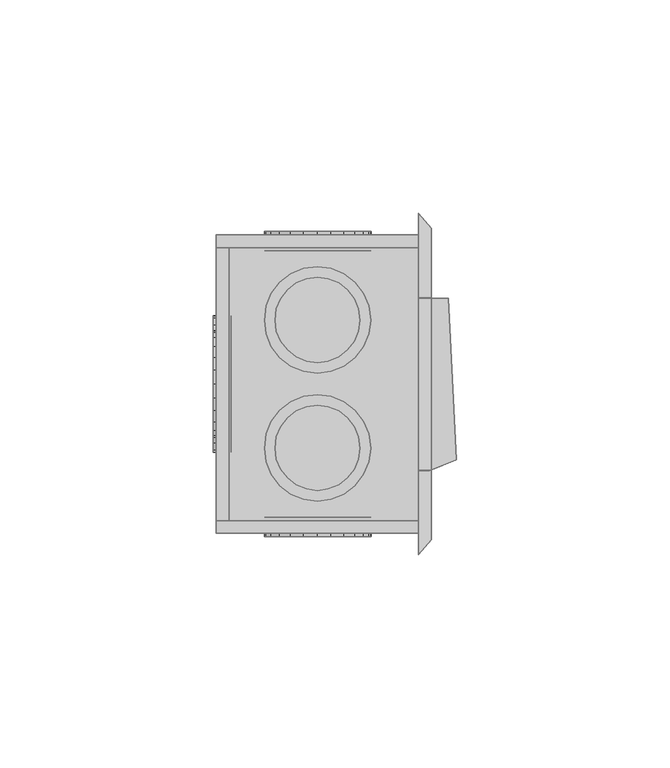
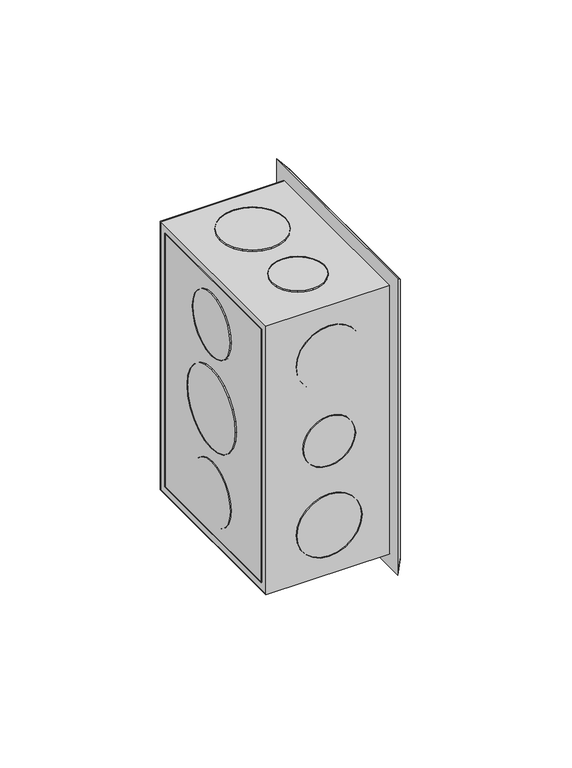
"""IFC4 building model written with IfcOpenShell, lengths in millimetres: proxy geometry,  210157 :  210157."""

from ifc_helpers import new_model, si_unit, origin, place, context, project, spatial, triangles, source, transform, mapped, element, save


def generic_models_f0119ebf(model_context):
    return source(origin(), model_context, "Body", "Tessellation", [
        triangles([(1323.4000351, 28251.801123, 1254.3000378), (1323.4000351, 28248.7989807, 1148.7000154), (1323.4000351, 28251.801123, 1145.6999805), (1323.4000351, 28248.7989807, 1251.2999302), (1323.4000351, 28181.8007446, 1254.3000378), (1323.4000351, 28184.8005615, 1251.2999302), (1323.4000351, 28181.8007446, 1145.6999805), (1323.4000351, 28184.8005615, 1148.7000154), (1275.9000275, 28248.7989807, 1251.2999302), (1275.9000275, 28248.7989807, 1148.7000154), (1275.9000275, 28181.8007446, 1254.3000378), (1275.9000275, 28181.8007446, 1145.6999805), (1275.9000275, 28184.8005615, 1251.2999302), (1275.9000275, 28251.801123, 1145.6999805), (1275.9000275, 28184.8005615, 1148.7000154), (1275.9000275, 28251.801123, 1254.3000378), (1278.8999897, 28248.7989807, 1251.2999302), (1278.8999897, 28184.8005615, 1148.7000154), (1278.8999897, 28248.7989807, 1148.7000154), (1278.8999897, 28184.8005615, 1251.2999302), (1279.3999592, 28230.7000854, 1191.9999887), (1279.3999592, 28224.8004456, 1186.0999855), (1279.3999592, 28228.1002441, 1188.6999722), (1279.3999592, 28232.2999878, 1195.8999687), (1279.3999592, 28221.0006775, 1184.5000105), (1279.3999592, 28232.7999573, 1200.0000092), (1279.3999592, 28216.8009338, 1183.9999683), (1279.3999592, 28232.2999878, 1204.0999769), (1279.3999592, 28212.6988586, 1184.5000105), (1279.3999592, 28230.7000854, 1208.0000296), (1279.3999592, 28208.7990967, 1186.0999855), (1279.3999592, 28228.1002441, 1211.2999735), (1279.3999592, 28205.4992981, 1188.6999722), (1279.3999592, 28224.8004456, 1213.9000328), (1279.3999592, 28202.9994507, 1191.9999887), (1279.3999592, 28221.0006775, 1215.5000078), (1279.3999592, 28201.3995483, 1195.8999687), (1279.3999592, 28216.8009338, 1215.9999773), (1279.3999592, 28200.799585, 1200.0000092), (1279.3999592, 28212.6988586, 1215.5000078), (1279.3999592, 28201.3995483, 1204.0999769), (1279.3999592, 28208.7990967, 1213.9000328), (1279.3999592, 28202.9994507, 1208.0000296), (1279.3999592, 28205.4992981, 1211.2999735), (1275.2000702, 28212.6988586, 1184.5000105), (1275.2000702, 28216.8009338, 1183.9999683), (1275.2000702, 28221.0006775, 1184.5000105), (1275.2000702, 28224.8004456, 1186.0999855), (1275.2000702, 28228.1002441, 1188.6999722), (1275.2000702, 28230.7000854, 1191.9999887), (1275.2000702, 28232.2999878, 1195.8999687), (1275.2000702, 28232.7999573, 1200.0000092), (1275.2000702, 28232.2999878, 1204.0999769), (1275.2000702, 28230.7000854, 1208.0000296), (1275.2000702, 28228.1002441, 1211.2999735), (1275.2000702, 28224.8004456, 1213.9000328), (1275.2000702, 28221.0006775, 1215.5000078), (1275.2000702, 28216.8009338, 1215.9999773), (1275.2000702, 28212.6988586, 1215.5000078), (1275.2000702, 28208.7990967, 1213.9000328), (1275.2000702, 28205.4992981, 1211.2999735), (1275.2000702, 28202.9994507, 1208.0000296), (1275.2000702, 28201.3995483, 1204.0999769), (1275.2000702, 28200.799585, 1200.0000092), (1275.2000702, 28201.3995483, 1195.8999687), (1275.2000702, 28202.9994507, 1191.9999887), (1275.2000702, 28205.4992981, 1188.6999722), (1275.2000702, 28208.7990967, 1186.0999855), (1279.3999592, 28227.7002686, 1227.8000565), (1279.3999592, 28223.1005493, 1223.2000465), (1279.3999592, 28225.7003906, 1225.2000698), (1279.3999592, 28228.9001953, 1230.8000187), (1279.3999592, 28220.1007324, 1221.8999805), (1279.3999592, 28229.3001709, 1233.9999687), (1279.3999592, 28216.8009338, 1221.500005), (1279.3999592, 28228.9001953, 1237.2000641), (1279.3999592, 28213.6011292, 1221.8999805), (1279.3999592, 28227.7002686, 1240.3000202), (1279.3999592, 28210.5989868, 1223.2000465), (1279.3999592, 28225.7003906, 1242.800013), (1279.3999592, 28207.9991455, 1225.2000698), (1279.3999592, 28205.9992676, 1227.8000565), (1279.3999592, 28223.1005493, 1244.8000362), (1279.3999592, 28220.1007324, 1246.0999569), (1279.3999592, 28204.7993408, 1230.8000187), (1279.3999592, 28216.8009338, 1246.4999325), (1279.3999592, 28204.2993713, 1233.9999687), (1279.3999592, 28213.6011292, 1246.0999569), (1279.3999592, 28204.7993408, 1237.2000641), (1279.3999592, 28205.9992676, 1240.3000202), (1279.3999592, 28210.5989868, 1244.8000362), (1279.3999592, 28207.9991455, 1242.800013), (1275.2000702, 28204.7993408, 1230.8000187), (1275.2000702, 28205.9992676, 1227.8000565), (1275.2000702, 28207.9991455, 1225.2000698), (1275.2000702, 28210.5989868, 1223.2000465), (1275.2000702, 28213.6011292, 1221.8999805), (1275.2000702, 28216.8009338, 1221.500005), (1275.2000702, 28220.1007324, 1221.8999805), (1275.2000702, 28223.1005493, 1223.2000465), (1275.2000702, 28225.7003906, 1225.2000698), (1275.2000702, 28227.7002686, 1227.8000565), (1275.2000702, 28228.9001953, 1230.8000187), (1275.2000702, 28229.3001709, 1233.9999687), (1275.2000702, 28228.9001953, 1237.2000641), (1275.2000702, 28227.7002686, 1240.3000202), (1275.2000702, 28225.7003906, 1242.800013), (1275.2000702, 28223.1005493, 1244.8000362), (1275.2000702, 28220.1007324, 1246.0999569), (1275.2000702, 28216.8009338, 1246.4999325), (1275.2000702, 28213.6011292, 1246.0999569), (1275.2000702, 28210.5989868, 1244.8000362), (1275.2000702, 28207.9991455, 1242.800013), (1275.2000702, 28205.9992676, 1240.3000202), (1275.2000702, 28204.7993408, 1237.2000641), (1275.2000702, 28204.2993713, 1233.9999687), (1275.2000702, 28223.1005493, 1155.1999821), (1275.2000702, 28227.7002686, 1159.6999981), (1275.2000702, 28225.7003906, 1157.2000053), (1275.2000702, 28220.1007324, 1153.8999887), (1275.2000702, 28228.9001953, 1162.8000269), (1275.2000702, 28216.8009338, 1153.5000132), (1275.2000702, 28229.3001709, 1165.9999769), (1275.2000702, 28213.6011292, 1153.8999887), (1275.2000702, 28228.9001953, 1169.1999996), (1275.2000702, 28210.5989868, 1155.1999821), (1275.2000702, 28227.7002686, 1172.2000345), (1275.2000702, 28207.9991455, 1157.2000053), (1275.2000702, 28225.7003906, 1174.8000212), (1275.2000702, 28205.9992676, 1159.6999981), (1275.2000702, 28223.1005493, 1176.7999718), (1275.2000702, 28204.7993408, 1162.8000269), (1275.2000702, 28220.1007324, 1178.0999651), (1275.2000702, 28216.8009338, 1178.5000134), (1275.2000702, 28204.2993713, 1165.9999769), (1275.2000702, 28204.7993408, 1169.1999996), (1275.2000702, 28213.6011292, 1178.0999651), (1275.2000702, 28205.9992676, 1172.2000345), (1275.2000702, 28210.5989868, 1176.7999718), (1275.2000702, 28207.9991455, 1174.8000212), (1279.3999592, 28220.1007324, 1178.0999651), (1279.3999592, 28216.8009338, 1178.5000134), (1279.3999592, 28223.1005493, 1176.7999718), (1279.3999592, 28225.7003906, 1174.8000212), (1279.3999592, 28227.7002686, 1172.2000345), (1279.3999592, 28228.9001953, 1169.1999996), (1279.3999592, 28229.3001709, 1165.9999769), (1279.3999592, 28228.9001953, 1162.8000269), (1279.3999592, 28227.7002686, 1159.6999981), (1279.3999592, 28225.7003906, 1157.2000053), (1279.3999592, 28223.1005493, 1155.1999821), (1279.3999592, 28220.1007324, 1153.8999887), (1279.3999592, 28216.8009338, 1153.5000132), (1279.3999592, 28213.6011292, 1153.8999887), (1279.3999592, 28210.5989868, 1155.1999821), (1279.3999592, 28207.9991455, 1157.2000053), (1279.3999592, 28205.9992676, 1159.6999981), (1279.3999592, 28204.7993408, 1162.8000269), (1279.3999592, 28204.2993713, 1165.9999769), (1279.3999592, 28204.7993408, 1169.1999996), (1279.3999592, 28205.9992676, 1172.2000345), (1279.3999592, 28207.9991455, 1174.8000212), (1279.3999592, 28210.5989868, 1176.7999718), (1279.3999592, 28213.6011292, 1178.0999651), (1294.7000427, 28247.9990295, 1191.3000315), (1290.9999779, 28247.9990295, 1195.0000237), (1292.6000256, 28247.9990295, 1192.9000065), (1290.0000389, 28247.9990295, 1197.4000225), (1297.1000416, 28247.9990295, 1190.3000198), (1289.7000572, 28247.9990295, 1200.0000092), (1299.7000282, 28247.9990295, 1189.9999655), (1302.200021, 28247.9990295, 1190.3000198), (1290.0000389, 28247.9990295, 1202.5999958), (1290.9999779, 28247.9990295, 1204.9999947), (1304.7000137, 28247.9990295, 1191.3000315), (1292.6000256, 28247.9990295, 1207.1000118), (1306.700037, 28247.9990295, 1192.9000065), (1308.2999393, 28247.9990295, 1195.0000237), (1294.7000427, 28247.9990295, 1208.6999868), (1309.3000237, 28247.9990295, 1197.4000225), (1297.1000416, 28247.9990295, 1209.6999985), (1309.6999992, 28247.9990295, 1200.0000092), (1299.7000282, 28247.9990295, 1209.9999802), (1309.3000237, 28247.9990295, 1202.5999958), (1302.200021, 28247.9990295, 1209.6999985), (1304.7000137, 28247.9990295, 1208.6999868), (1308.2999393, 28247.9990295, 1204.9999947), (1306.700037, 28247.9990295, 1207.1000118), (1299.7000282, 28252.6010742, 1189.9999655), (1297.1000416, 28252.6010742, 1190.3000198), (1302.200021, 28252.6010742, 1190.3000198), (1304.7000137, 28252.6010742, 1191.3000315), (1306.700037, 28252.6010742, 1192.9000065), (1308.2999393, 28252.6010742, 1195.0000237), (1309.3000237, 28252.6010742, 1197.4000225), (1309.6999992, 28252.6010742, 1200.0000092), (1309.3000237, 28252.6010742, 1202.5999958), (1308.2999393, 28252.6010742, 1204.9999947), (1306.700037, 28252.6010742, 1207.1000118), (1304.7000137, 28252.6010742, 1208.6999868), (1302.200021, 28252.6010742, 1209.6999985), (1299.7000282, 28252.6010742, 1209.9999802), (1297.1000416, 28252.6010742, 1209.6999985), (1294.7000427, 28252.6010742, 1208.6999868), (1292.6000256, 28252.6010742, 1207.1000118), (1290.9999779, 28252.6010742, 1204.9999947), (1290.0000389, 28252.6010742, 1202.5999958), (1289.7000572, 28252.6010742, 1200.0000092), (1290.0000389, 28252.6010742, 1197.4000225), (1290.9999779, 28252.6010742, 1195.0000237), (1292.6000256, 28252.6010742, 1192.9000065), (1294.7000427, 28252.6010742, 1191.3000315), (1293.3999767, 28247.9990295, 1223.2000465), (1288.7999668, 28247.9990295, 1227.8000565), (1290.7999901, 28247.9990295, 1225.2000698), (1296.399939, 28247.9990295, 1221.8999805), (1287.6000401, 28247.9990295, 1230.8000187), (1287.2000645, 28247.9990295, 1233.9999687), (1299.7000282, 28247.9990295, 1221.500005), (1302.8999783, 28247.9990295, 1221.8999805), (1287.6000401, 28247.9990295, 1237.2000641), (1288.7999668, 28247.9990295, 1240.3000202), (1305.8999405, 28247.9990295, 1223.2000465), (1308.5000725, 28247.9990295, 1225.2000698), (1290.7999901, 28247.9990295, 1242.800013), (1310.4999504, 28247.9990295, 1227.8000565), (1293.3999767, 28247.9990295, 1244.8000362), (1311.7000225, 28247.9990295, 1230.8000187), (1296.399939, 28247.9990295, 1246.0999569), (1312.199992, 28247.9990295, 1233.9999687), (1299.7000282, 28247.9990295, 1246.4999325), (1311.7000225, 28247.9990295, 1237.2000641), (1302.8999783, 28247.9990295, 1246.0999569), (1310.4999504, 28247.9990295, 1240.3000202), (1305.8999405, 28247.9990295, 1244.8000362), (1308.5000725, 28247.9990295, 1242.800013), (1299.7000282, 28252.6010742, 1221.500005), (1296.399939, 28252.6010742, 1221.8999805), (1302.8999783, 28252.6010742, 1221.8999805), (1305.8999405, 28252.6010742, 1223.2000465), (1308.5000725, 28252.6010742, 1225.2000698), (1310.4999504, 28252.6010742, 1227.8000565), (1311.7000225, 28252.6010742, 1230.8000187), (1312.199992, 28252.6010742, 1233.9999687), (1311.7000225, 28252.6010742, 1237.2000641), (1310.4999504, 28252.6010742, 1240.3000202), (1308.5000725, 28252.6010742, 1242.800013), (1305.8999405, 28252.6010742, 1244.8000362), (1302.8999783, 28252.6010742, 1246.0999569), (1299.7000282, 28252.6010742, 1246.4999325), (1296.399939, 28252.6010742, 1246.0999569), (1293.3999767, 28252.6010742, 1244.8000362), (1290.7999901, 28252.6010742, 1242.800013), (1288.7999668, 28252.6010742, 1240.3000202), (1287.6000401, 28252.6010742, 1237.2000641), (1287.2000645, 28252.6010742, 1233.9999687), (1287.6000401, 28252.6010742, 1230.8000187), (1288.7999668, 28252.6010742, 1227.8000565), (1290.7999901, 28252.6010742, 1225.2000698), (1293.3999767, 28252.6010742, 1223.2000465), (1288.7999668, 28252.6010742, 1159.6999981), (1293.3999767, 28252.6010742, 1155.1999821), (1290.7999901, 28252.6010742, 1157.2000053), (1287.6000401, 28252.6010742, 1162.8000269), (1296.399939, 28252.6010742, 1153.8999887), (1287.2000645, 28252.6010742, 1165.9999769), (1299.7000282, 28252.6010742, 1153.5000132), (1287.6000401, 28252.6010742, 1169.1999996), (1302.8999783, 28252.6010742, 1153.8999887), (1288.7999668, 28252.6010742, 1172.2000345), (1305.8999405, 28252.6010742, 1155.1999821), (1290.7999901, 28252.6010742, 1174.8000212), (1308.5000725, 28252.6010742, 1157.2000053), (1293.3999767, 28252.6010742, 1176.7999718), (1310.4999504, 28252.6010742, 1159.6999981), (1296.399939, 28252.6010742, 1178.0999651), (1311.7000225, 28252.6010742, 1162.8000269), (1299.7000282, 28252.6010742, 1178.5000134), (1312.199992, 28252.6010742, 1165.9999769), (1302.8999783, 28252.6010742, 1178.0999651), (1311.7000225, 28252.6010742, 1169.1999996), (1305.8999405, 28252.6010742, 1176.7999718), (1310.4999504, 28252.6010742, 1172.2000345), (1308.5000725, 28252.6010742, 1174.8000212), (1296.399939, 28247.9990295, 1178.0999651), (1299.7000282, 28247.9990295, 1178.5000134), (1302.8999783, 28247.9990295, 1178.0999651), (1305.8999405, 28247.9990295, 1176.7999718), (1308.5000725, 28247.9990295, 1174.8000212), (1310.4999504, 28247.9990295, 1172.2000345), (1311.7000225, 28247.9990295, 1169.1999996), (1312.199992, 28247.9990295, 1165.9999769), (1311.7000225, 28247.9990295, 1162.8000269), (1310.4999504, 28247.9990295, 1159.6999981), (1308.5000725, 28247.9990295, 1157.2000053), (1305.8999405, 28247.9990295, 1155.1999821), (1302.8999783, 28247.9990295, 1153.8999887), (1299.7000282, 28247.9990295, 1153.5000132), (1296.399939, 28247.9990295, 1153.8999887), (1293.3999767, 28247.9990295, 1155.1999821), (1290.7999901, 28247.9990295, 1157.2000053), (1288.7999668, 28247.9990295, 1159.6999981), (1287.6000401, 28247.9990295, 1162.8000269), (1287.2000645, 28247.9990295, 1165.9999769), (1287.6000401, 28247.9990295, 1169.1999996), (1288.7999668, 28247.9990295, 1172.2000345), (1290.7999901, 28247.9990295, 1174.8000212), (1293.3999767, 28247.9990295, 1176.7999718), (1290.9999779, 28185.6005127, 1195.0000237), (1294.7000427, 28185.6005127, 1191.3000315), (1292.6000256, 28185.6005127, 1192.9000065), (1290.0000389, 28185.6005127, 1197.4000225), (1297.1000416, 28185.6005127, 1190.3000198), (1289.7000572, 28185.6005127, 1200.0000092), (1299.7000282, 28185.6005127, 1189.9999655), (1290.0000389, 28185.6005127, 1202.5999958), (1302.200021, 28185.6005127, 1190.3000198), (1290.9999779, 28185.6005127, 1204.9999947), (1304.7000137, 28185.6005127, 1191.3000315), (1292.6000256, 28185.6005127, 1207.1000118), (1306.700037, 28185.6005127, 1192.9000065), (1294.7000427, 28185.6005127, 1208.6999868), (1308.2999393, 28185.6005127, 1195.0000237), (1297.1000416, 28185.6005127, 1209.6999985), (1309.3000237, 28185.6005127, 1197.4000225), (1309.6999992, 28185.6005127, 1200.0000092), (1299.7000282, 28185.6005127, 1209.9999802), (1302.200021, 28185.6005127, 1209.6999985), (1309.3000237, 28185.6005127, 1202.5999958), (1304.7000137, 28185.6005127, 1208.6999868), (1308.2999393, 28185.6005127, 1204.9999947), (1306.700037, 28185.6005127, 1207.1000118), (1297.1000416, 28181.0007935, 1209.6999985), (1299.7000282, 28181.0007935, 1209.9999802), (1302.200021, 28181.0007935, 1209.6999985), (1304.7000137, 28181.0007935, 1208.6999868), (1306.700037, 28181.0007935, 1207.1000118), (1308.2999393, 28181.0007935, 1204.9999947), (1309.3000237, 28181.0007935, 1202.5999958), (1309.6999992, 28181.0007935, 1200.0000092), (1309.3000237, 28181.0007935, 1197.4000225), (1308.2999393, 28181.0007935, 1195.0000237), (1306.700037, 28181.0007935, 1192.9000065), (1304.7000137, 28181.0007935, 1191.3000315), (1302.200021, 28181.0007935, 1190.3000198), (1299.7000282, 28181.0007935, 1189.9999655), (1297.1000416, 28181.0007935, 1190.3000198), (1294.7000427, 28181.0007935, 1191.3000315), (1292.6000256, 28181.0007935, 1192.9000065), (1290.9999779, 28181.0007935, 1195.0000237), (1290.0000389, 28181.0007935, 1197.4000225), (1289.7000572, 28181.0007935, 1200.0000092), (1290.0000389, 28181.0007935, 1202.5999958), (1290.9999779, 28181.0007935, 1204.9999947), (1292.6000256, 28181.0007935, 1207.1000118), (1294.7000427, 28181.0007935, 1208.6999868), (1288.7999668, 28185.6005127, 1159.6999981), (1293.3999767, 28185.6005127, 1155.1999821), (1290.7999901, 28185.6005127, 1157.2000053), (1287.6000401, 28185.6005127, 1162.8000269), (1296.399939, 28185.6005127, 1153.8999887), (1287.2000645, 28185.6005127, 1165.9999769), (1299.7000282, 28185.6005127, 1153.5000132), (1287.6000401, 28185.6005127, 1169.1999996), (1302.8999783, 28185.6005127, 1153.8999887), (1288.7999668, 28185.6005127, 1172.2000345), (1305.8999405, 28185.6005127, 1155.1999821), (1290.7999901, 28185.6005127, 1174.8000212), (1308.5000725, 28185.6005127, 1157.2000053), (1293.3999767, 28185.6005127, 1176.7999718), (1310.4999504, 28185.6005127, 1159.6999981), (1296.399939, 28185.6005127, 1178.0999651), (1311.7000225, 28185.6005127, 1162.8000269), (1299.7000282, 28185.6005127, 1178.5000134), (1312.199992, 28185.6005127, 1165.9999769), (1302.8999783, 28185.6005127, 1178.0999651), (1311.7000225, 28185.6005127, 1169.1999996), (1305.8999405, 28185.6005127, 1176.7999718), (1310.4999504, 28185.6005127, 1172.2000345), (1308.5000725, 28185.6005127, 1174.8000212), (1296.399939, 28181.0007935, 1178.0999651), (1299.7000282, 28181.0007935, 1178.5000134), (1302.8999783, 28181.0007935, 1178.0999651), (1305.8999405, 28181.0007935, 1176.7999718), (1308.5000725, 28181.0007935, 1174.8000212), (1310.4999504, 28181.0007935, 1172.2000345), (1311.7000225, 28181.0007935, 1169.1999996), (1312.199992, 28181.0007935, 1165.9999769), (1311.7000225, 28181.0007935, 1162.8000269), (1310.4999504, 28181.0007935, 1159.6999981), (1308.5000725, 28181.0007935, 1157.2000053), (1305.8999405, 28181.0007935, 1155.1999821), (1302.8999783, 28181.0007935, 1153.8999887), (1299.7000282, 28181.0007935, 1153.5000132), (1296.399939, 28181.0007935, 1153.8999887), (1293.3999767, 28181.0007935, 1155.1999821), (1290.7999901, 28181.0007935, 1157.2000053), (1288.7999668, 28181.0007935, 1159.6999981), (1287.6000401, 28181.0007935, 1162.8000269), (1287.2000645, 28181.0007935, 1165.9999769), (1287.6000401, 28181.0007935, 1169.1999996), (1288.7999668, 28181.0007935, 1172.2000345), (1290.7999901, 28181.0007935, 1174.8000212), (1293.3999767, 28181.0007935, 1176.7999718), (1293.3999767, 28181.0007935, 1223.2000465), (1288.7999668, 28181.0007935, 1227.8000565), (1290.7999901, 28181.0007935, 1225.2000698), (1296.399939, 28181.0007935, 1221.8999805), (1287.6000401, 28181.0007935, 1230.8000187), (1287.2000645, 28181.0007935, 1233.9999687), (1299.7000282, 28181.0007935, 1221.500005), (1302.8999783, 28181.0007935, 1221.8999805), (1287.6000401, 28181.0007935, 1237.2000641), (1288.7999668, 28181.0007935, 1240.3000202), (1305.8999405, 28181.0007935, 1223.2000465), (1308.5000725, 28181.0007935, 1225.2000698), (1290.7999901, 28181.0007935, 1242.800013), (1310.4999504, 28181.0007935, 1227.8000565), (1293.3999767, 28181.0007935, 1244.8000362), (1311.7000225, 28181.0007935, 1230.8000187), (1296.399939, 28181.0007935, 1246.0999569), (1312.199992, 28181.0007935, 1233.9999687), (1299.7000282, 28181.0007935, 1246.4999325), (1311.7000225, 28181.0007935, 1237.2000641), (1302.8999783, 28181.0007935, 1246.0999569), (1310.4999504, 28181.0007935, 1240.3000202), (1305.8999405, 28181.0007935, 1244.8000362), (1308.5000725, 28181.0007935, 1242.800013), (1299.7000282, 28185.6005127, 1221.500005), (1296.399939, 28185.6005127, 1221.8999805), (1302.8999783, 28185.6005127, 1221.8999805), (1305.8999405, 28185.6005127, 1223.2000465), (1308.5000725, 28185.6005127, 1225.2000698), (1310.4999504, 28185.6005127, 1227.8000565), (1311.7000225, 28185.6005127, 1230.8000187), (1312.199992, 28185.6005127, 1233.9999687), (1311.7000225, 28185.6005127, 1237.2000641), (1310.4999504, 28185.6005127, 1240.3000202), (1308.5000725, 28185.6005127, 1242.800013), (1305.8999405, 28185.6005127, 1244.8000362), (1302.8999783, 28185.6005127, 1246.0999569), (1299.7000282, 28185.6005127, 1246.4999325), (1296.399939, 28185.6005127, 1246.0999569), (1293.3999767, 28185.6005127, 1244.8000362), (1290.7999901, 28185.6005127, 1242.800013), (1288.7999668, 28185.6005127, 1240.3000202), (1287.6000401, 28185.6005127, 1237.2000641), (1287.2000645, 28185.6005127, 1233.9999687), (1287.6000401, 28185.6005127, 1230.8000187), (1288.7999668, 28185.6005127, 1227.8000565), (1290.7999901, 28185.6005127, 1225.2000698), (1293.3999767, 28185.6005127, 1223.2000465), (1293.3999767, 28242.699353, 1250.9999485), (1288.7999668, 28238.0996338, 1250.9999485), (1290.7999901, 28240.6994751, 1250.9999485), (1296.399939, 28243.8992798, 1250.9999485), (1287.6000401, 28235.0998169, 1250.9999485), (1287.2000645, 28231.8000183, 1250.9999485), (1299.7000282, 28244.2992554, 1250.9999485), (1302.8999783, 28243.8992798, 1250.9999485), (1287.6000401, 28228.6002136, 1250.9999485), (1288.7999668, 28225.6003967, 1250.9999485), (1305.8999405, 28242.699353, 1250.9999485), (1308.5000725, 28240.6994751, 1250.9999485), (1290.7999901, 28223.0005554, 1250.9999485), (1293.3999767, 28221.0006775, 1250.9999485), (1310.4999504, 28238.0996338, 1250.9999485), (1311.7000225, 28235.0998169, 1250.9999485), (1296.399939, 28219.8007507, 1250.9999485), (1312.199992, 28231.8000183, 1250.9999485), (1299.7000282, 28219.3007812, 1250.9999485), (1311.7000225, 28228.6002136, 1250.9999485), (1302.8999783, 28219.8007507, 1250.9999485), (1305.8999405, 28221.0006775, 1250.9999485), (1310.4999504, 28225.6003967, 1250.9999485), (1308.5000725, 28223.0005554, 1250.9999485), (1287.2000645, 28231.8000183, 1255.1999828), (1287.6000401, 28228.6002136, 1255.1999828), (1287.6000401, 28235.0998169, 1255.1999828), (1288.7999668, 28238.0996338, 1255.1999828), (1290.7999901, 28240.6994751, 1255.1999828), (1293.3999767, 28242.699353, 1255.1999828), (1296.399939, 28243.8992798, 1255.1999828), (1299.7000282, 28244.2992554, 1255.1999828), (1302.8999783, 28243.8992798, 1255.1999828), (1305.8999405, 28242.699353, 1255.1999828), (1308.5000725, 28240.6994751, 1255.1999828), (1310.4999504, 28238.0996338, 1255.1999828), (1311.7000225, 28235.0998169, 1255.1999828), (1312.199992, 28231.8000183, 1255.1999828), (1311.7000225, 28228.6002136, 1255.1999828), (1310.4999504, 28225.6003967, 1255.1999828), (1308.5000725, 28223.0005554, 1255.1999828), (1305.8999405, 28221.0006775, 1255.1999828), (1302.8999783, 28219.8007507, 1255.1999828), (1299.7000282, 28219.3007812, 1255.1999828), (1296.399939, 28219.8007507, 1255.1999828), (1293.3999767, 28221.0006775, 1255.1999828), (1290.7999901, 28223.0005554, 1255.1999828), (1288.7999668, 28225.6003967, 1255.1999828), (1294.7000427, 28210.4989929, 1250.9999485), (1290.9999779, 28206.7992188, 1250.9999485), (1292.6000256, 28208.8990906, 1250.9999485), (1290.0000389, 28204.3993652, 1250.9999485), (1297.1000416, 28211.4989319, 1250.9999485), (1289.7000572, 28201.7995239, 1250.9999485), (1299.7000282, 28211.7989136, 1250.9999485), (1302.200021, 28211.4989319, 1250.9999485), (1290.0000389, 28199.1996826, 1250.9999485), (1290.9999779, 28196.7998291, 1250.9999485), (1304.7000137, 28210.4989929, 1250.9999485), (1292.6000256, 28194.7999512, 1250.9999485), (1306.700037, 28208.8990906, 1250.9999485), (1308.2999393, 28206.7992188, 1250.9999485), (1294.7000427, 28193.2000488, 1250.9999485), (1297.1000416, 28192.2001099, 1250.9999485), (1309.3000237, 28204.3993652, 1250.9999485), (1309.6999992, 28201.7995239, 1250.9999485), (1299.7000282, 28191.8001343, 1250.9999485), (1309.3000237, 28199.1996826, 1250.9999485), (1302.200021, 28192.2001099, 1250.9999485), (1308.2999393, 28196.7998291, 1250.9999485), (1304.7000137, 28193.2000488, 1250.9999485), (1306.700037, 28194.7999512, 1250.9999485), (1290.0000389, 28199.1996826, 1255.1999828), (1290.9999779, 28196.7998291, 1255.1999828), (1289.7000572, 28201.7995239, 1255.1999828), (1290.0000389, 28204.3993652, 1255.1999828), (1290.9999779, 28206.7992188, 1255.1999828), (1292.6000256, 28208.8990906, 1255.1999828), (1294.7000427, 28210.4989929, 1255.1999828), (1297.1000416, 28211.4989319, 1255.1999828), (1299.7000282, 28211.7989136, 1255.1999828), (1302.200021, 28211.4989319, 1255.1999828), (1304.7000137, 28210.4989929, 1255.1999828), (1306.700037, 28208.8990906, 1255.1999828), (1308.2999393, 28206.7992188, 1255.1999828), (1309.3000237, 28204.3993652, 1255.1999828), (1309.6999992, 28201.7995239, 1255.1999828), (1309.3000237, 28199.1996826, 1255.1999828), (1308.2999393, 28196.7998291, 1255.1999828), (1306.700037, 28194.7999512, 1255.1999828), (1304.7000137, 28193.2000488, 1255.1999828), (1302.200021, 28192.2001099, 1255.1999828), (1299.7000282, 28191.8001343, 1255.1999828), (1297.1000416, 28192.2001099, 1255.1999828), (1294.7000427, 28193.2000488, 1255.1999828), (1292.6000256, 28194.7999512, 1255.1999828), (1294.7000427, 28240.4994873, 1144.8000355), (1290.9999779, 28236.7997131, 1144.8000355), (1292.6000256, 28238.899585, 1144.8000355), (1290.0000389, 28234.3998596, 1144.8000355), (1297.1000416, 28241.4994263, 1144.8000355), (1289.7000572, 28231.8000183, 1144.8000355), (1299.7000282, 28241.799408, 1144.8000355), (1302.200021, 28241.4994263, 1144.8000355), (1290.0000389, 28229.200177, 1144.8000355), (1290.9999779, 28226.8003235, 1144.8000355), (1304.7000137, 28240.4994873, 1144.8000355), (1292.6000256, 28224.8004456, 1144.8000355), (1306.700037, 28238.899585, 1144.8000355), (1308.2999393, 28236.7997131, 1144.8000355), (1294.7000427, 28223.2005432, 1144.8000355), (1297.1000416, 28222.2006042, 1144.8000355), (1309.3000237, 28234.3998596, 1144.8000355), (1309.6999992, 28231.8000183, 1144.8000355), (1299.7000282, 28221.8006287, 1144.8000355), (1309.3000237, 28229.200177, 1144.8000355), (1302.200021, 28222.2006042, 1144.8000355), (1308.2999393, 28226.8003235, 1144.8000355), (1304.7000137, 28223.2005432, 1144.8000355), (1306.700037, 28224.8004456, 1144.8000355), (1290.0000389, 28234.3998596, 1149.099991), (1289.7000572, 28231.8000183, 1149.099991), (1290.9999779, 28236.7997131, 1149.099991), (1292.6000256, 28238.899585, 1149.099991), (1294.7000427, 28240.4994873, 1149.099991), (1297.1000416, 28241.4994263, 1149.099991), (1299.7000282, 28241.799408, 1149.099991), (1302.200021, 28241.4994263, 1149.099991), (1304.7000137, 28240.4994873, 1149.099991), (1306.700037, 28238.899585, 1149.099991), (1308.2999393, 28236.7997131, 1149.099991), (1309.3000237, 28234.3998596, 1149.099991), (1309.6999992, 28231.8000183, 1149.099991), (1309.3000237, 28229.200177, 1149.099991), (1308.2999393, 28226.8003235, 1149.099991), (1306.700037, 28224.8004456, 1149.099991), (1304.7000137, 28223.2005432, 1149.099991), (1302.200021, 28222.2006042, 1149.099991), (1299.7000282, 28221.8006287, 1149.099991), (1297.1000416, 28222.2006042, 1149.099991), (1294.7000427, 28223.2005432, 1149.099991), (1292.6000256, 28224.8004456, 1149.099991), (1290.9999779, 28226.8003235, 1149.099991), (1290.0000389, 28229.200177, 1149.099991), (1293.3999767, 28212.6988586, 1144.8000355), (1288.7999668, 28208.0991394, 1144.8000355), (1290.7999901, 28210.6989807, 1144.8000355), (1296.399939, 28213.9011108, 1144.8000355), (1287.6000401, 28205.0993225, 1144.8000355), (1287.2000645, 28201.7995239, 1144.8000355), (1299.7000282, 28214.3010864, 1144.8000355), (1302.8999783, 28213.9011108, 1144.8000355), (1287.6000401, 28198.5997192, 1144.8000355), (1288.7999668, 28195.5999023, 1144.8000355), (1305.8999405, 28212.6988586, 1144.8000355), (1308.5000725, 28210.6989807, 1144.8000355), (1290.7999901, 28193.000061, 1144.8000355), (1293.3999767, 28191.0001831, 1144.8000355), (1310.4999504, 28208.0991394, 1144.8000355), (1311.7000225, 28205.0993225, 1144.8000355), (1296.399939, 28189.8002563, 1144.8000355), (1312.199992, 28201.7995239, 1144.8000355), (1299.7000282, 28189.3002869, 1144.8000355), (1311.7000225, 28198.5997192, 1144.8000355), (1302.8999783, 28189.8002563, 1144.8000355), (1305.8999405, 28191.0001831, 1144.8000355), (1310.4999504, 28195.5999023, 1144.8000355), (1308.5000725, 28193.000061, 1144.8000355), (1287.6000401, 28198.5997192, 1149.099991), (1288.7999668, 28195.5999023, 1149.099991), (1287.2000645, 28201.7995239, 1149.099991), (1287.6000401, 28205.0993225, 1149.099991), (1288.7999668, 28208.0991394, 1149.099991), (1290.7999901, 28210.6989807, 1149.099991), (1293.3999767, 28212.6988586, 1149.099991), (1296.399939, 28213.9011108, 1149.099991), (1299.7000282, 28214.3010864, 1149.099991), (1302.8999783, 28213.9011108, 1149.099991), (1305.8999405, 28212.6988586, 1149.099991), (1308.5000725, 28210.6989807, 1149.099991), (1310.4999504, 28208.0991394, 1149.099991), (1311.7000225, 28205.0993225, 1149.099991), (1312.199992, 28201.7995239, 1149.099991), (1311.7000225, 28198.5997192, 1149.099991), (1310.4999504, 28195.5999023, 1149.099991), (1308.5000725, 28193.000061, 1149.099991), (1305.8999405, 28191.0001831, 1149.099991), (1302.8999783, 28189.8002563, 1149.099991), (1299.7000282, 28189.3002869, 1149.099991), (1296.399939, 28189.8002563, 1149.099991), (1293.3999767, 28191.0001831, 1149.099991), (1290.7999901, 28193.000061, 1149.099991), (1323.4000351, 28176.8010498, 1139.9999651), (1323.4000351, 28236.9997009, 1188.2999966), (1323.4000351, 28256.8008179, 1139.9999651), (1323.4000351, 28196.5998413, 1188.2999966), (1323.4000351, 28176.8010498, 1259.9999805), (1323.4000351, 28196.5998413, 1211.7000217), (1323.4000351, 28256.8008179, 1259.9999805), (1323.4000351, 28236.9997009, 1211.7000217), (1326.3999973, 28196.5998413, 1188.2999966), (1326.3999973, 28196.5998413, 1211.7000217), (1326.3999973, 28236.9997009, 1188.2999966), (1326.3999973, 28236.9997009, 1211.7000217), (1326.3999973, 28253.3010315, 1143.4999695), (1326.3999973, 28253.3010315, 1256.5000488), (1326.3999973, 28180.3008362, 1143.4999695), (1326.3999973, 28180.3008362, 1256.5000488), (1330.4000439, 28236.899707, 1188.1000088), (1323.4000351, 28196.4998474, 1188.1000088), (1323.4000351, 28236.899707, 1188.1000088), (1332.2999279, 28199.0996887, 1188.1000088), (1325.9000278, 28196.4998474, 1188.1000088), (1323.4000351, 28236.899707, 1211.500034), (1323.4000351, 28196.4998474, 1211.500034), (1330.4000439, 28236.899707, 1211.500034), (1332.2999279, 28199.0996887, 1211.500034), (1325.9000278, 28196.4998474, 1211.500034)], [[1, 2, 3], [2, 1, 4], [5, 4, 1], [4, 5, 6], [3, 2, 7], [7, 2, 8], [7, 8, 6], [7, 6, 5], [2, 9, 10], [9, 2, 4], [7, 11, 12], [11, 7, 5], [4, 13, 9], [13, 4, 6], [3, 12, 14], [12, 3, 7], [13, 8, 15], [8, 13, 6], [16, 3, 14], [3, 16, 1], [15, 2, 10], [2, 15, 8], [11, 1, 16], [1, 11, 5], [12, 10, 14], [10, 12, 15], [11, 15, 12], [15, 11, 13], [14, 10, 16], [16, 10, 9], [16, 9, 13], [16, 13, 11], [17, 18, 19], [18, 17, 20], [18, 13, 15], [13, 18, 20], [19, 15, 10], [15, 19, 18], [9, 19, 10], [19, 9, 17], [13, 17, 9], [17, 13, 20], [15, 9, 10], [9, 15, 13], [21, 22, 23], [22, 21, 24], [25, 22, 24], [25, 24, 26], [27, 25, 26], [27, 26, 28], [29, 27, 28], [29, 28, 30], [31, 29, 30], [31, 30, 32], [31, 32, 33], [33, 32, 34], [33, 34, 35], [35, 34, 36], [35, 36, 37], [37, 36, 38], [37, 38, 39], [39, 38, 40], [39, 40, 41], [41, 40, 42], [41, 42, 43], [43, 42, 44], [27, 45, 46], [45, 27, 29], [25, 46, 47], [46, 25, 27], [22, 47, 48], [47, 22, 25], [23, 48, 49], [48, 23, 22], [50, 23, 49], [23, 50, 21], [51, 21, 50], [21, 51, 24], [52, 24, 51], [24, 52, 26], [53, 26, 52], [26, 53, 28], [54, 28, 53], [28, 54, 30], [55, 30, 54], [30, 55, 32], [56, 32, 55], [32, 56, 34], [57, 34, 56], [34, 57, 36], [58, 36, 57], [36, 58, 38], [59, 38, 58], [38, 59, 40], [60, 40, 59], [40, 60, 42], [61, 42, 60], [42, 61, 44], [43, 61, 62], [61, 43, 44], [41, 62, 63], [62, 41, 43], [39, 63, 64], [63, 39, 41], [37, 64, 65], [64, 37, 39], [35, 65, 66], [65, 35, 37], [33, 66, 67], [66, 33, 35], [31, 67, 68], [67, 31, 33], [29, 68, 45], [68, 29, 31], [48, 50, 49], [50, 48, 47], [51, 50, 47], [51, 47, 46], [52, 51, 46], [52, 46, 45], [53, 52, 45], [53, 45, 68], [54, 53, 68], [54, 68, 67], [54, 67, 55], [55, 67, 66], [55, 66, 56], [56, 66, 65], [56, 65, 57], [57, 65, 64], [57, 64, 58], [58, 64, 63], [58, 63, 59], [59, 63, 62], [59, 62, 60], [60, 62, 61], [69, 70, 71], [70, 69, 72], [73, 70, 72], [73, 72, 74], [75, 73, 74], [75, 74, 76], [77, 75, 76], [77, 76, 78], [79, 77, 78], [79, 78, 80], [81, 79, 80], [81, 80, 82], [82, 80, 83], [82, 83, 84], [82, 84, 85], [85, 84, 86], [85, 86, 87], [87, 86, 88], [87, 88, 89], [89, 88, 90], [90, 88, 91], [90, 91, 92], [82, 93, 94], [93, 82, 85], [81, 94, 95], [94, 81, 82], [79, 95, 96], [95, 79, 81], [77, 96, 97], [96, 77, 79], [75, 97, 98], [97, 75, 77], [73, 98, 99], [98, 73, 75], [70, 99, 100], [99, 70, 73], [71, 100, 101], [100, 71, 70], [102, 71, 101], [71, 102, 69], [103, 69, 102], [69, 103, 72], [104, 72, 103], [72, 104, 74], [105, 74, 104], [74, 105, 76], [106, 76, 105], [76, 106, 78], [107, 78, 106], [78, 107, 80], [108, 80, 107], [80, 108, 83], [109, 83, 108], [83, 109, 84], [110, 84, 109], [84, 110, 86], [111, 86, 110], [86, 111, 88], [112, 88, 111], [88, 112, 91], [113, 91, 112], [91, 113, 92], [90, 113, 114], [113, 90, 92], [89, 114, 115], [114, 89, 90], [87, 115, 116], [115, 87, 89], [85, 116, 93], [116, 85, 87], [100, 102, 101], [102, 100, 99], [103, 102, 99], [103, 99, 98], [104, 103, 98], [104, 98, 97], [105, 104, 97], [106, 105, 97], [106, 97, 96], [106, 96, 95], [106, 95, 107], [107, 95, 94], [107, 94, 108], [108, 94, 93], [108, 93, 109], [109, 93, 116], [109, 116, 110], [110, 116, 115], [110, 115, 111], [111, 115, 114], [111, 114, 112], [112, 114, 113], [117, 118, 119], [118, 117, 120], [121, 118, 120], [121, 120, 122], [123, 121, 122], [123, 122, 124], [125, 123, 124], [125, 124, 126], [127, 125, 126], [127, 126, 128], [127, 128, 129], [129, 128, 130], [129, 130, 131], [131, 130, 132], [131, 132, 133], [133, 132, 134], [134, 132, 135], [134, 135, 136], [134, 136, 137], [137, 136, 138], [137, 138, 139], [139, 138, 140], [134, 141, 133], [141, 134, 142], [133, 143, 131], [143, 133, 141], [131, 144, 129], [144, 131, 143], [129, 145, 127], [145, 129, 144], [127, 146, 125], [146, 127, 145], [125, 147, 123], [147, 125, 146], [123, 148, 121], [148, 123, 147], [121, 149, 118], [149, 121, 148], [118, 150, 119], [150, 118, 149], [150, 117, 119], [117, 150, 151], [151, 120, 117], [120, 151, 152], [152, 122, 120], [122, 152, 153], [153, 124, 122], [124, 153, 154], [154, 126, 124], [126, 154, 155], [155, 128, 126], [128, 155, 156], [156, 130, 128], [130, 156, 157], [157, 132, 130], [132, 157, 158], [158, 135, 132], [135, 158, 159], [159, 136, 135], [136, 159, 160], [160, 138, 136], [138, 160, 161], [161, 140, 138], [140, 161, 162], [140, 163, 139], [163, 140, 162], [139, 164, 137], [164, 139, 163], [137, 142, 134], [142, 137, 164], [149, 151, 150], [151, 149, 148], [152, 151, 148], [153, 152, 148], [153, 148, 147], [153, 147, 146], [154, 153, 146], [154, 146, 145], [155, 154, 145], [155, 145, 144], [156, 155, 144], [156, 144, 157], [157, 144, 143], [157, 143, 141], [157, 141, 158], [158, 141, 142], [158, 142, 159], [159, 142, 164], [159, 164, 160], [160, 164, 163], [160, 163, 161], [161, 163, 162], [165, 166, 167], [168, 166, 165], [168, 165, 169], [170, 168, 169], [170, 169, 171], [170, 171, 172], [173, 170, 172], [174, 173, 172], [174, 172, 175], [176, 174, 175], [176, 175, 177], [176, 177, 178], [176, 178, 179], [179, 178, 180], [179, 180, 181], [181, 180, 182], [181, 182, 183], [183, 182, 184], [183, 184, 185], [185, 184, 186], [186, 184, 187], [186, 187, 188], [189, 169, 190], [169, 189, 171], [191, 171, 189], [171, 191, 172], [192, 172, 191], [172, 192, 175], [193, 175, 192], [175, 193, 177], [194, 177, 193], [177, 194, 178], [195, 178, 194], [178, 195, 180], [196, 180, 195], [180, 196, 182], [197, 182, 196], [182, 197, 184], [198, 184, 197], [184, 198, 187], [199, 187, 198], [187, 199, 188], [186, 199, 200], [199, 186, 188], [185, 200, 201], [200, 185, 186], [183, 201, 202], [201, 183, 185], [181, 202, 203], [202, 181, 183], [179, 203, 204], [203, 179, 181], [176, 204, 205], [204, 176, 179], [174, 205, 206], [205, 174, 176], [173, 206, 207], [206, 173, 174], [170, 207, 208], [207, 170, 173], [168, 208, 209], [208, 168, 170], [166, 209, 210], [209, 166, 168], [167, 210, 211], [210, 167, 166], [212, 167, 211], [167, 212, 165], [190, 165, 212], [165, 190, 169], [210, 212, 211], [212, 210, 209], [190, 212, 209], [190, 209, 208], [189, 190, 208], [189, 208, 207], [191, 189, 207], [191, 207, 206], [192, 191, 206], [192, 206, 205], [192, 205, 193], [193, 205, 204], [193, 204, 194], [194, 204, 203], [194, 203, 195], [195, 203, 196], [196, 203, 202], [196, 202, 201], [196, 201, 197], [197, 201, 200], [197, 200, 198], [198, 200, 199], [213, 214, 215], [214, 213, 216], [217, 214, 216], [218, 217, 216], [218, 216, 219], [218, 219, 220], [221, 218, 220], [222, 221, 220], [222, 220, 223], [222, 223, 224], [222, 224, 225], [225, 224, 226], [225, 226, 227], [227, 226, 228], [227, 228, 229], [229, 228, 230], [229, 230, 231], [231, 230, 232], [231, 232, 233], [233, 232, 234], [233, 234, 235], [235, 234, 236], [237, 216, 238], [216, 237, 219], [239, 219, 237], [219, 239, 220], [240, 220, 239], [220, 240, 223], [241, 223, 240], [223, 241, 224], [242, 224, 241], [224, 242, 226], [243, 226, 242], [226, 243, 228], [244, 228, 243], [228, 244, 230], [245, 230, 244], [230, 245, 232], [246, 232, 245], [232, 246, 234], [247, 234, 246], [234, 247, 236], [235, 247, 248], [247, 235, 236], [233, 248, 249], [248, 233, 235], [231, 249, 250], [249, 231, 233], [229, 250, 251], [250, 229, 231], [227, 251, 252], [251, 227, 229], [225, 252, 253], [252, 225, 227], [222, 253, 254], [253, 222, 225], [221, 254, 255], [254, 221, 222], [218, 255, 256], [255, 218, 221], [217, 256, 257], [256, 217, 218], [214, 257, 258], [257, 214, 217], [215, 258, 259], [258, 215, 214], [260, 215, 259], [215, 260, 213], [238, 213, 260], [213, 238, 216], [258, 260, 259], [260, 258, 257], [238, 260, 257], [238, 257, 256], [237, 238, 256], [237, 256, 255], [239, 237, 255], [239, 255, 254], [240, 239, 254], [240, 254, 253], [241, 240, 253], [241, 253, 252], [241, 252, 242], [242, 252, 251], [242, 251, 243], [243, 251, 244], [244, 251, 250], [244, 250, 249], [244, 249, 245], [245, 249, 246], [246, 249, 248], [246, 248, 247], [261, 262, 263], [262, 261, 264], [265, 262, 264], [265, 264, 266], [267, 265, 266], [267, 266, 268], [269, 267, 268], [269, 268, 270], [271, 269, 270], [271, 270, 272], [273, 271, 272], [273, 272, 274], [273, 274, 275], [275, 274, 276], [275, 276, 277], [277, 276, 278], [277, 278, 279], [279, 278, 280], [279, 280, 281], [281, 280, 282], [281, 282, 283], [283, 282, 284], [285, 278, 276], [278, 285, 286], [286, 280, 278], [280, 286, 287], [287, 282, 280], [282, 287, 288], [288, 284, 282], [284, 288, 289], [284, 290, 283], [290, 284, 289], [283, 291, 281], [291, 283, 290], [281, 292, 279], [292, 281, 291], [279, 293, 277], [293, 279, 292], [277, 294, 275], [294, 277, 293], [275, 295, 273], [295, 275, 294], [273, 296, 271], [296, 273, 295], [271, 297, 269], [297, 271, 296], [269, 298, 267], [298, 269, 297], [267, 299, 265], [299, 267, 298], [265, 300, 262], [300, 265, 299], [262, 301, 263], [301, 262, 300], [301, 261, 263], [261, 301, 302], [302, 264, 261], [264, 302, 303], [303, 266, 264], [266, 303, 304], [304, 268, 266], [268, 304, 305], [305, 270, 268], [270, 305, 306], [306, 272, 270], [272, 306, 307], [307, 274, 272], [274, 307, 308], [308, 276, 274], [276, 308, 285], [300, 302, 301], [302, 300, 299], [303, 302, 299], [303, 299, 298], [304, 303, 298], [304, 298, 297], [305, 304, 297], [305, 297, 296], [306, 305, 296], [306, 296, 295], [306, 295, 307], [307, 295, 294], [307, 294, 308], [308, 294, 293], [308, 293, 285], [285, 293, 286], [286, 293, 292], [286, 292, 291], [286, 291, 287], [287, 291, 288], [288, 291, 290], [288, 290, 289], [309, 310, 311], [310, 309, 312], [313, 310, 312], [313, 312, 314], [315, 313, 314], [315, 314, 316], [317, 315, 316], [317, 316, 318], [319, 317, 318], [319, 318, 320], [319, 320, 321], [321, 320, 322], [321, 322, 323], [323, 322, 324], [323, 324, 325], [325, 324, 326], [326, 324, 327], [326, 327, 328], [326, 328, 329], [329, 328, 330], [329, 330, 331], [331, 330, 332], [333, 327, 324], [327, 333, 334], [334, 328, 327], [328, 334, 335], [335, 330, 328], [330, 335, 336], [336, 332, 330], [332, 336, 337], [332, 338, 331], [338, 332, 337], [331, 339, 329], [339, 331, 338], [329, 340, 326], [340, 329, 339], [326, 341, 325], [341, 326, 340], [325, 342, 323], [342, 325, 341], [323, 343, 321], [343, 323, 342], [321, 344, 319], [344, 321, 343], [319, 345, 317], [345, 319, 344], [317, 346, 315], [346, 317, 345], [315, 347, 313], [347, 315, 346], [313, 348, 310], [348, 313, 347], [310, 349, 311], [349, 310, 348], [349, 309, 311], [309, 349, 350], [350, 312, 309], [312, 350, 351], [351, 314, 312], [314, 351, 352], [352, 316, 314], [316, 352, 353], [353, 318, 316], [318, 353, 354], [354, 320, 318], [320, 354, 355], [355, 322, 320], [322, 355, 356], [356, 324, 322], [324, 356, 333], [348, 350, 349], [351, 350, 348], [351, 348, 347], [352, 351, 347], [352, 347, 346], [352, 346, 345], [353, 352, 345], [354, 353, 345], [354, 345, 344], [355, 354, 344], [355, 344, 343], [355, 343, 342], [355, 342, 356], [356, 342, 341], [356, 341, 333], [333, 341, 340], [333, 340, 334], [334, 340, 339], [334, 339, 335], [335, 339, 336], [336, 339, 338], [336, 338, 337], [357, 358, 359], [358, 357, 360], [361, 358, 360], [361, 360, 362], [363, 361, 362], [363, 362, 364], [365, 363, 364], [365, 364, 366], [367, 365, 366], [367, 366, 368], [369, 367, 368], [369, 368, 370], [369, 370, 371], [371, 370, 372], [371, 372, 373], [373, 372, 374], [373, 374, 375], [375, 374, 376], [375, 376, 377], [377, 376, 378], [377, 378, 379], [379, 378, 380], [381, 374, 372], [374, 381, 382], [382, 376, 374], [376, 382, 383], [383, 378, 376], [378, 383, 384], [384, 380, 378], [380, 384, 385], [380, 386, 379], [386, 380, 385], [379, 387, 377], [387, 379, 386], [377, 388, 375], [388, 377, 387], [375, 389, 373], [389, 375, 388], [373, 390, 371], [390, 373, 389], [371, 391, 369], [391, 371, 390], [369, 392, 367], [392, 369, 391], [367, 393, 365], [393, 367, 392], [365, 394, 363], [394, 365, 393], [363, 395, 361], [395, 363, 394], [361, 396, 358], [396, 361, 395], [358, 397, 359], [397, 358, 396], [397, 357, 359], [357, 397, 398], [398, 360, 357], [360, 398, 399], [399, 362, 360], [362, 399, 400], [400, 364, 362], [364, 400, 401], [401, 366, 364], [366, 401, 402], [402, 368, 366], [368, 402, 403], [403, 370, 368], [370, 403, 404], [404, 372, 370], [372, 404, 381], [396, 398, 397], [398, 396, 395], [399, 398, 395], [399, 395, 394], [400, 399, 394], [400, 394, 393], [401, 400, 393], [401, 393, 392], [402, 401, 392], [402, 392, 391], [402, 391, 403], [403, 391, 390], [403, 390, 404], [404, 390, 389], [404, 389, 381], [381, 389, 382], [382, 389, 388], [382, 388, 387], [382, 387, 383], [383, 387, 384], [384, 387, 386], [384, 386, 385], [405, 406, 407], [406, 405, 408], [409, 406, 408], [410, 409, 408], [410, 408, 411], [410, 411, 412], [413, 410, 412], [414, 413, 412], [414, 412, 415], [414, 415, 416], [414, 416, 417], [417, 416, 418], [417, 418, 419], [419, 418, 420], [419, 420, 421], [421, 420, 422], [421, 422, 423], [423, 422, 424], [423, 424, 425], [425, 424, 426], [425, 426, 427], [427, 426, 428], [429, 408, 430], [408, 429, 411], [431, 411, 429], [411, 431, 412], [432, 412, 431], [412, 432, 415], [433, 415, 432], [415, 433, 416], [434, 416, 433], [416, 434, 418], [435, 418, 434], [418, 435, 420], [436, 420, 435], [420, 436, 422], [437, 422, 436], [422, 437, 424], [438, 424, 437], [424, 438, 426], [439, 426, 438], [426, 439, 428], [427, 439, 440], [439, 427, 428], [425, 440, 441], [440, 425, 427], [423, 441, 442], [441, 423, 425], [421, 442, 443], [442, 421, 423], [419, 443, 444], [443, 419, 421], [417, 444, 445], [444, 417, 419], [414, 445, 446], [445, 414, 417], [413, 446, 447], [446, 413, 414], [410, 447, 448], [447, 410, 413], [409, 448, 449], [448, 409, 410], [406, 449, 450], [449, 406, 409], [407, 450, 451], [450, 407, 406], [452, 407, 451], [407, 452, 405], [430, 405, 452], [405, 430, 408], [450, 452, 451], [452, 450, 449], [430, 452, 449], [430, 449, 448], [429, 430, 448], [429, 448, 447], [431, 429, 447], [431, 447, 446], [432, 431, 446], [432, 446, 445], [433, 432, 445], [433, 445, 444], [433, 444, 434], [434, 444, 443], [434, 443, 435], [435, 443, 436], [436, 443, 442], [436, 442, 441], [436, 441, 437], [437, 441, 438], [438, 441, 440], [438, 440, 439], [453, 454, 455], [454, 453, 456], [457, 454, 456], [458, 457, 456], [458, 456, 459], [458, 459, 460], [461, 458, 460], [462, 461, 460], [462, 460, 463], [462, 463, 464], [462, 464, 465], [465, 464, 466], [466, 464, 467], [466, 467, 468], [466, 468, 469], [469, 468, 470], [469, 470, 471], [471, 470, 472], [471, 472, 473], [473, 472, 474], [474, 472, 475], [474, 475, 476], [461, 477, 458], [477, 461, 478], [458, 479, 457], [479, 458, 477], [457, 480, 454], [480, 457, 479], [454, 481, 455], [481, 454, 480], [481, 453, 455], [453, 481, 482], [482, 456, 453], [456, 482, 483], [483, 459, 456], [459, 483, 484], [484, 460, 459], [460, 484, 485], [485, 463, 460], [463, 485, 486], [486, 464, 463], [464, 486, 487], [487, 467, 464], [467, 487, 488], [488, 468, 467], [468, 488, 489], [489, 470, 468], [470, 489, 490], [490, 472, 470], [472, 490, 491], [491, 475, 472], [475, 491, 492], [492, 476, 475], [476, 492, 493], [476, 494, 474], [494, 476, 493], [474, 495, 473], [495, 474, 494], [473, 496, 471], [496, 473, 495], [471, 497, 469], [497, 471, 496], [469, 498, 466], [498, 469, 497], [466, 499, 465], [499, 466, 498], [465, 500, 462], [500, 465, 499], [462, 478, 461], [478, 462, 500], [480, 482, 481], [483, 482, 480], [483, 480, 479], [483, 479, 477], [484, 483, 477], [485, 484, 477], [485, 477, 478], [485, 478, 500], [486, 485, 500], [487, 486, 500], [487, 500, 499], [487, 499, 498], [487, 498, 488], [488, 498, 489], [489, 498, 497], [489, 497, 490], [490, 497, 496], [490, 496, 491], [491, 496, 495], [491, 495, 494], [491, 494, 492], [492, 494, 493], [501, 502, 503], [504, 502, 501], [504, 501, 505], [506, 504, 505], [506, 505, 507], [506, 507, 508], [509, 506, 508], [510, 509, 508], [510, 508, 511], [512, 510, 511], [512, 511, 513], [512, 513, 514], [512, 514, 515], [515, 514, 516], [516, 514, 517], [516, 517, 518], [516, 518, 519], [519, 518, 520], [519, 520, 521], [521, 520, 522], [521, 522, 523], [523, 522, 524], [510, 525, 509], [525, 510, 526], [509, 527, 506], [527, 509, 525], [506, 528, 504], [528, 506, 527], [504, 529, 502], [529, 504, 528], [502, 530, 503], [530, 502, 529], [530, 501, 503], [501, 530, 531], [531, 505, 501], [505, 531, 532], [532, 507, 505], [507, 532, 533], [533, 508, 507], [508, 533, 534], [534, 511, 508], [511, 534, 535], [535, 513, 511], [513, 535, 536], [536, 514, 513], [514, 536, 537], [537, 517, 514], [517, 537, 538], [538, 518, 517], [518, 538, 539], [539, 520, 518], [520, 539, 540], [540, 522, 520], [522, 540, 541], [541, 524, 522], [524, 541, 542], [524, 543, 523], [543, 524, 542], [523, 544, 521], [544, 523, 543], [521, 545, 519], [545, 521, 544], [519, 546, 516], [546, 519, 545], [516, 547, 515], [547, 516, 546], [515, 548, 512], [548, 515, 547], [512, 526, 510], [526, 512, 548], [529, 531, 530], [531, 529, 528], [532, 531, 528], [532, 528, 527], [533, 532, 527], [534, 533, 527], [534, 527, 525], [534, 525, 526], [535, 534, 526], [535, 526, 548], [535, 548, 536], [536, 548, 537], [537, 548, 547], [537, 547, 546], [537, 546, 538], [538, 546, 539], [539, 546, 545], [539, 545, 540], [540, 545, 544], [540, 544, 541], [541, 544, 543], [541, 543, 542], [549, 550, 551], [552, 550, 549], [552, 549, 553], [554, 552, 553], [554, 553, 555], [554, 555, 556], [557, 554, 556], [558, 557, 556], [558, 556, 559], [560, 558, 559], [560, 559, 561], [560, 561, 562], [560, 562, 563], [563, 562, 564], [564, 562, 565], [564, 565, 566], [564, 566, 567], [567, 566, 568], [567, 568, 569], [569, 568, 570], [569, 570, 571], [571, 570, 572], [554, 573, 552], [573, 554, 574], [552, 575, 550], [575, 552, 573], [550, 576, 551], [576, 550, 575], [576, 549, 551], [549, 576, 577], [577, 553, 549], [553, 577, 578], [578, 555, 553], [555, 578, 579], [579, 556, 555], [556, 579, 580], [580, 559, 556], [559, 580, 581], [581, 561, 559], [561, 581, 582], [582, 562, 561], [562, 582, 583], [583, 565, 562], [565, 583, 584], [584, 566, 565], [566, 584, 585], [585, 568, 566], [568, 585, 586], [586, 570, 568], [570, 586, 587], [587, 572, 570], [572, 587, 588], [572, 589, 571], [589, 572, 588], [571, 590, 569], [590, 571, 589], [569, 591, 567], [591, 569, 590], [567, 592, 564], [592, 567, 591], [564, 593, 563], [593, 564, 592], [563, 594, 560], [594, 563, 593], [560, 595, 558], [595, 560, 594], [558, 596, 557], [596, 558, 595], [557, 574, 554], [574, 557, 596], [575, 577, 576], [577, 575, 573], [578, 577, 573], [578, 573, 574], [579, 578, 574], [580, 579, 574], [580, 574, 596], [580, 596, 595], [581, 580, 595], [581, 595, 594], [581, 594, 582], [582, 594, 583], [583, 594, 593], [583, 593, 592], [583, 592, 584], [584, 592, 585], [585, 592, 591], [585, 591, 586], [586, 591, 590], [586, 590, 587], [587, 590, 589], [587, 589, 588], [597, 598, 599], [598, 597, 600], [601, 598, 600], [602, 601, 600], [602, 600, 603], [602, 603, 604], [605, 602, 604], [606, 605, 604], [606, 604, 607], [606, 607, 608], [606, 608, 609], [609, 608, 610], [610, 608, 611], [610, 611, 612], [610, 612, 613], [613, 612, 614], [613, 614, 615], [615, 614, 616], [615, 616, 617], [617, 616, 618], [618, 616, 619], [618, 619, 620], [606, 621, 605], [621, 606, 622], [605, 623, 602], [623, 605, 621], [602, 624, 601], [624, 602, 623], [601, 625, 598], [625, 601, 624], [598, 626, 599], [626, 598, 625], [626, 597, 599], [597, 626, 627], [627, 600, 597], [600, 627, 628], [628, 603, 600], [603, 628, 629], [629, 604, 603], [604, 629, 630], [630, 607, 604], [607, 630, 631], [631, 608, 607], [608, 631, 632], [632, 611, 608], [611, 632, 633], [633, 612, 611], [612, 633, 634], [634, 614, 612], [614, 634, 635], [635, 616, 614], [616, 635, 636], [636, 619, 616], [619, 636, 637], [637, 620, 619], [620, 637, 638], [620, 639, 618], [639, 620, 638], [618, 640, 617], [640, 618, 639], [617, 641, 615], [641, 617, 640], [615, 642, 613], [642, 615, 641], [613, 643, 610], [643, 613, 642], [610, 644, 609], [644, 610, 643], [609, 622, 606], [622, 609, 644], [625, 627, 626], [628, 627, 625], [628, 625, 624], [628, 624, 623], [629, 628, 623], [630, 629, 623], [630, 623, 621], [630, 621, 622], [631, 630, 622], [632, 631, 622], [632, 622, 644], [632, 644, 643], [632, 643, 633], [633, 643, 634], [634, 643, 642], [634, 642, 635], [635, 642, 641], [635, 641, 636], [636, 641, 640], [636, 640, 639], [636, 639, 637], [637, 639, 638], [645, 646, 647], [646, 645, 648], [649, 648, 645], [648, 649, 650], [647, 646, 651], [651, 646, 652], [651, 652, 650], [651, 650, 649], [650, 653, 648], [653, 650, 654], [648, 655, 646], [655, 648, 653], [655, 652, 646], [652, 655, 656], [656, 650, 652], [650, 656, 654], [651, 657, 647], [657, 651, 658], [647, 657, 645], [645, 657, 659], [660, 645, 659], [645, 660, 649], [651, 660, 658], [649, 660, 651], [658, 655, 657], [655, 658, 656], [654, 656, 658], [654, 658, 660], [655, 659, 657], [659, 655, 653], [659, 653, 660], [660, 653, 654], [661, 662, 663], [662, 661, 664], [662, 664, 665], [662, 666, 663], [666, 662, 667], [666, 661, 663], [661, 666, 668], [668, 664, 661], [664, 668, 669], [664, 670, 665], [670, 664, 669], [665, 667, 662], [667, 665, 670], [667, 668, 666], [668, 667, 669], [669, 667, 670]], closed=False),
    ])


if __name__ == "__main__":
    model = new_model("IFC4")
    model_context = context("Model", 3, world=origin())
    ifc_project = project(units=[si_unit("LENGTHUNIT", "METRE", prefix="MILLI")], contexts=[model_context])
    site = spatial("IfcSite", under=ifc_project)
    building = spatial("IfcBuilding", under=site)
    placement = place(None, origin())
    generic_models_shape = generic_models_f0119ebf(model_context)
    element("IfcBuildingElementProxy", 1, Name=" 210157 :  210157", ObjectType=" 210157 :  210157", at=placement, inside=building, context=model_context, shape_type="MappedRepresentation", body=[
        mapped(generic_models_shape, transform((0.0, 0.0, 0.0), x_axis=(1.0, 0.0, 0.0), y_axis=(0.0, 1.0, 0.0), z_axis=(0.0, 0.0, 1.0))),
    ])
    save(model, "model.ifc")
